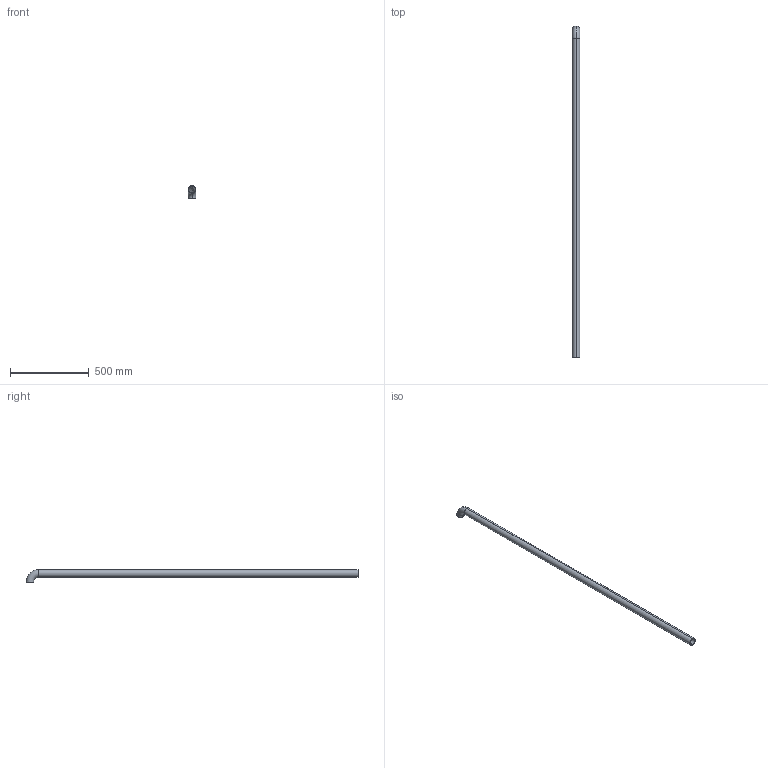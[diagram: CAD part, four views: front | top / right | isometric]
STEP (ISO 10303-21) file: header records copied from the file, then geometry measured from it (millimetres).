
FILE_DESCRIPTION (( 'STEP AP214' ), '1' );
FILE_NAME ('CCJ029-REP.343 - MAIN COURANTE PLATEFORME SUPERIEURE A3-B3.STEP', '2025-11-04T13:24:14', ( '' ), ( '' ), 'SwSTEP 2.0', 'SolidWorks 2021', '' );
FILE_SCHEMA (( 'AUTOMOTIVE_DESIGN' ));
Length unit declared in the file: millimetre
Products named in the file (1): CCJ029-REP.343 - MAIN COURANTE PLATEFORME SUPERIEURE A3-B3
Bounding box: 48.3 x 2113.15 x 81.15 mm (x, y, z)
Volume: 763142.5 mm3; surface area: 611233.4 mm2
Topology: 1 solids, 1 shells, 10 faces, 20 edges, 12 vertices
Faces by surface type: torus 4, cylinder 4, plane 2
Entity records: 306 total; most frequent: DIRECTION 58, CARTESIAN_POINT 43, ORIENTED_EDGE 40, AXIS2_PLACEMENT_3D 27, EDGE_CURVE 20, CIRCLE 16, EDGE_LOOP 12, VERTEX_POINT 12
